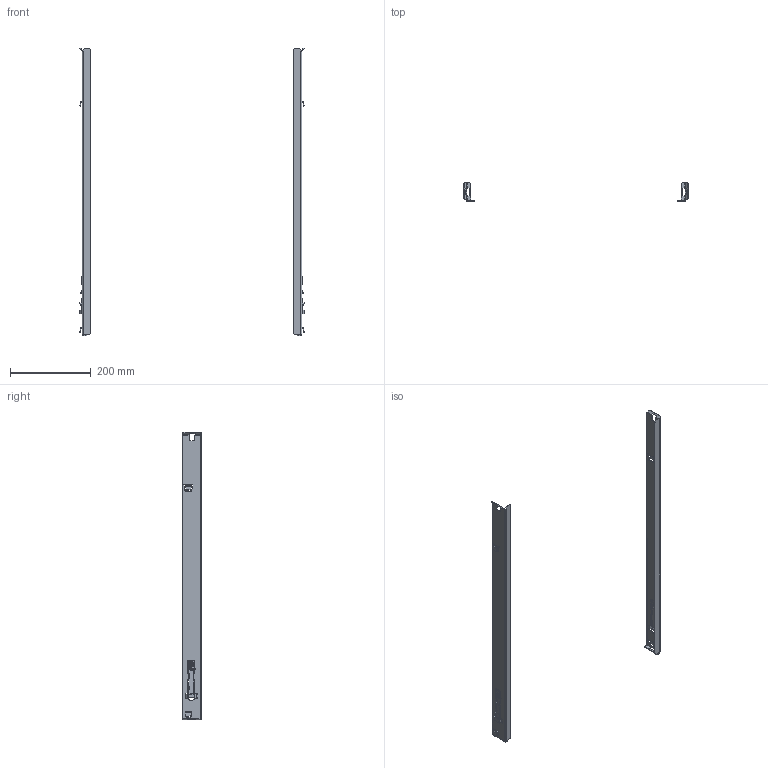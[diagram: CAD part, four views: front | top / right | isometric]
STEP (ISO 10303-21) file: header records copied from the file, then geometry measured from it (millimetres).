
FILE_DESCRIPTION((''),'2;1');
FILE_NAME('C32621_PAIR_PILOT_230411_ASM','2023-04-12T23:33:44',('juliahuynh'),(''),'CREO PARAMETRIC BY PTC INC, 2022024','CREO PARAMETRIC BY PTC INC, 2022024','');
FILE_SCHEMA(('CONFIG_CONTROL_DESIGN'));
Length unit declared in the file: millimetre
Products named in the file (7): C32621_LH_PILOT_230411; C32615__PILOT_230411_AF1; C32621_LH_PILOT_230411_ASM; C32621_RH_PILOT_230411; C32615__PILOT_230411_AF0; C32621_RH_PILOT_230411_ASM; C32621_PAIR_PILOT_230411_ASM
Assembly tree (6 placements, depth 3):
  C32621_PAIR_PILOT_230411_ASM
    C32621_LH_PILOT_230411_ASM
      C32621_LH_PILOT_230411
      C32615__PILOT_230411_AF1
    C32621_RH_PILOT_230411_ASM
      C32621_RH_PILOT_230411
      C32615__PILOT_230411_AF0
Bounding box: 556.01 x 46.45 x 711.36 mm (x, y, z)
Volume: 177743.6 mm3; surface area: 189674.5 mm2
Topology: 4 solids, 4 shells, 854 faces, 2114 edges, 1256 vertices
Faces by surface type: plane 560, cylinder 274, bspline 16, sphere 4
Entity records: 26052 total; most frequent: CARTESIAN_POINT 5473, DIRECTION 4332, ORIENTED_EDGE 4228, EDGE_CURVE 2114, VECTOR 1542, LINE 1542, AXIS2_PLACEMENT_3D 1395, VERTEX_POINT 1256
